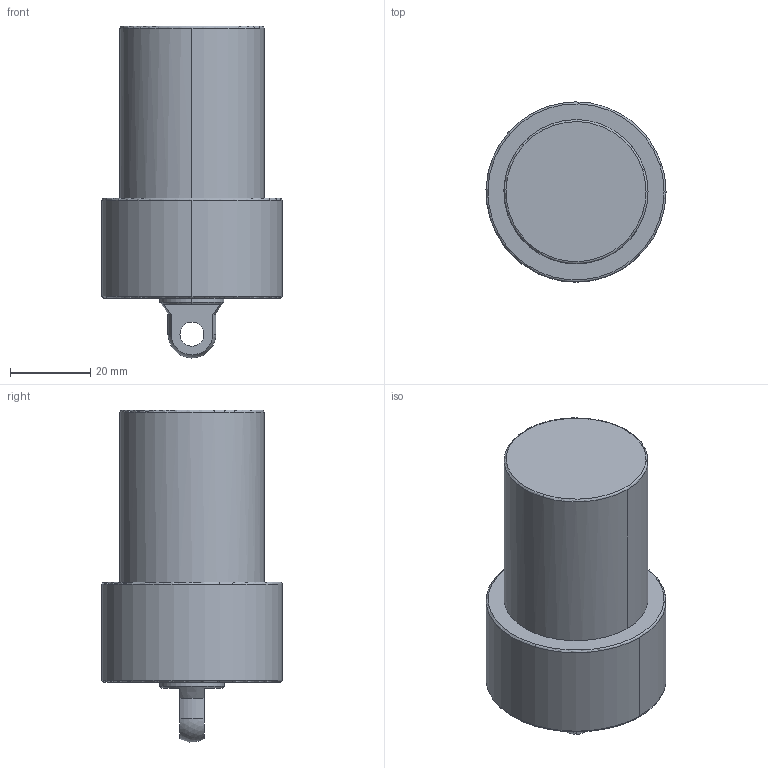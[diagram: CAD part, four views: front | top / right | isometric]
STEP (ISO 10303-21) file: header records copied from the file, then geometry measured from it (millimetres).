
FILE_DESCRIPTION((' '),'2;1');
FILE_NAME( 'TLLU-036GP-035.STEP.stp', '2025-10-24T16:37:09', (' '), ('--- Datakit www.datakit.com---'), ' Datakit CrossCadWare V2024.1 Dec 21 2023', 'Mastercam 2025', ' ');
FILE_SCHEMA(('AUTOMOTIVE_DESIGN { 1 0 10303 214 1 1 1 1 }'));
Length unit declared in the file: millimetre
Products named in the file (1): TLLU-036GP-035
Bounding box: 44.99 x 45 x 82.97 mm (x, y, z)
Volume: 83881.6 mm3; surface area: 12567.3 mm2
Topology: 1 solids, 1 shells, 56 faces, 159 edges, 105 vertices
Faces by surface type: cylinder 22, cone 18, plane 9, torus 6, sphere 1
Entity records: 1872 total; most frequent: DIRECTION 364, CARTESIAN_POINT 325, ORIENTED_EDGE 302, AXIS2_PLACEMENT_3D 160, EDGE_CURVE 151, VERTEX_POINT 105, CIRCLE 103, EDGE_LOOP 66
